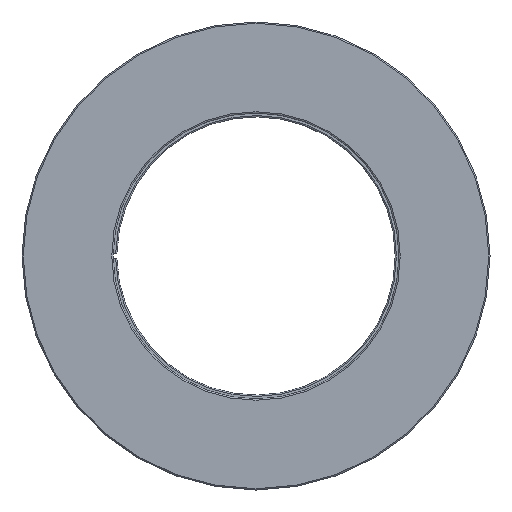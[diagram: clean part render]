
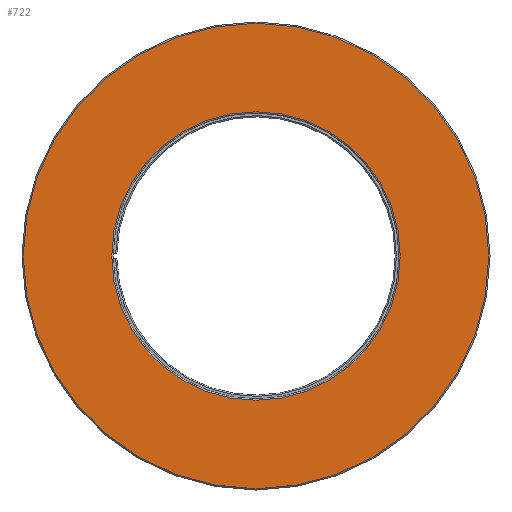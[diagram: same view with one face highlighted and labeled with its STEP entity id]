
A CAD part, left-side view. The second image highlights one B-rep face of the part: STEP entity #722.
In plain terms, the highlighted planar face has unit normal (-1, 0, 0).
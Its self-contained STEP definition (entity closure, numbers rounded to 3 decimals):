
#722 = ADVANCED_FACE( '', ( #2069, #2070 ), #2071, .T. );
#2069 = FACE_OUTER_BOUND( '', #4118, .T. );
#2070 = FACE_BOUND( '', #4119, .T. );
#2071 = PLANE( '', #4120 );
#4118 = EDGE_LOOP( '', ( #7407 ) );
#4119 = EDGE_LOOP( '', ( #7408 ) );
#4120 = AXIS2_PLACEMENT_3D( '', #7409, #7410, #7411 );
#7407 = ORIENTED_EDGE( '', *, *, #9110, .F. );
#7408 = ORIENTED_EDGE( '', *, *, #9111, .T. );
#7409 = CARTESIAN_POINT( '', ( -104., 149., 0. ) );
#7410 = DIRECTION( '', ( -1., 0., 0. ) );
#7411 = DIRECTION( '', ( 0., 0., 1. ) );
#9110 = EDGE_CURVE( '', #9334, #9334, #9335, .F. );
#9111 = EDGE_CURVE( '', #9336, #9336, #9337, .T. );
#9334 = VERTEX_POINT( '', #9580 );
#9335 = CIRCLE( '', #9581, 184. );
#9336 = VERTEX_POINT( '', #9582 );
#9337 = CIRCLE( '', #9583, 114. );
#9580 = CARTESIAN_POINT( '', ( -104., 0., 184. ) );
#9581 = AXIS2_PLACEMENT_3D( '', #9836, #9837, #9838 );
#9582 = CARTESIAN_POINT( '', ( -104., 114., 0. ) );
#9583 = AXIS2_PLACEMENT_3D( '', #9839, #9840, #9841 );
#9836 = CARTESIAN_POINT( '', ( -104., 0., 0. ) );
#9837 = DIRECTION( '', ( -1., 0., 0. ) );
#9838 = DIRECTION( '', ( 0., 0., 1. ) );
#9839 = CARTESIAN_POINT( '', ( -104., 0., 0. ) );
#9840 = DIRECTION( '', ( 1., 0., 0. ) );
#9841 = DIRECTION( '', ( 0., 1., 0. ) );
